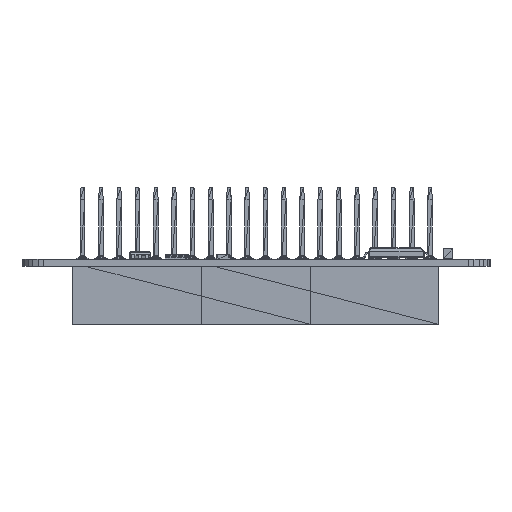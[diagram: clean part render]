
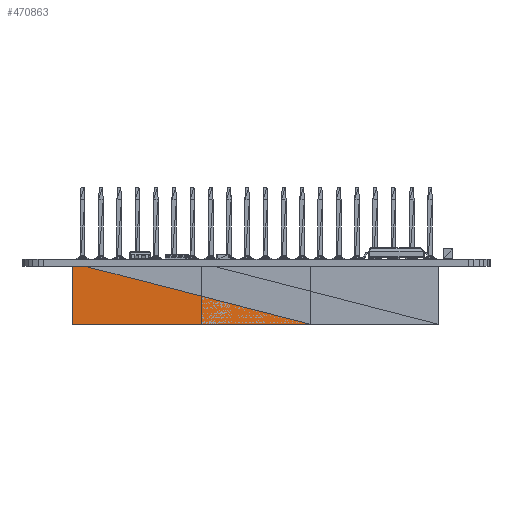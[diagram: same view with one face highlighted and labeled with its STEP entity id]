
A CAD part, front view. The second image highlights one B-rep face of the part: STEP entity #470863.
In plain terms, the highlighted planar face has unit normal (0, -1, 0) as drawn and (0, 0, -1) by its records, which use the part's own axes.
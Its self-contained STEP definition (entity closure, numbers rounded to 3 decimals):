
#470723 = VERTEX_POINT('',#470724);
#470724 = CARTESIAN_POINT('',(-34.335,10.648,
    -1.253));
#470752 = EDGE_CURVE('',#470723,#470753,#470755,.T.);
#470753 = VERTEX_POINT('',#470754);
#470754 = CARTESIAN_POINT('',(-1.315,19.148,
    -1.253));
#470755 = LINE('',#470756,#470757);
#470756 = CARTESIAN_POINT('',(-34.335,10.648,
    -1.253));
#470757 = VECTOR('',#470758,1.);
#470758 = DIRECTION('',(0.968,0.249,
    0.));
#470845 = VERTEX_POINT('',#470846);
#470846 = CARTESIAN_POINT('',(-34.335,19.148,
    -1.253));
#470852 = EDGE_CURVE('',#470845,#470723,#470853,.T.);
#470853 = LINE('',#470854,#470855);
#470854 = CARTESIAN_POINT('',(-34.335,19.148,
    -1.253));
#470855 = VECTOR('',#470856,1.);
#470856 = DIRECTION('',(0.,-1.,0.));
#470863 = ADVANCED_FACE('',(#470864),#470874,.F.);
#470864 = FACE_BOUND('',#470865,.T.);
#470865 = EDGE_LOOP('',(#470866,#470867,#470868));
#470866 = ORIENTED_EDGE('',*,*,#470752,.F.);
#470867 = ORIENTED_EDGE('',*,*,#470852,.F.);
#470868 = ORIENTED_EDGE('',*,*,#470869,.F.);
#470869 = EDGE_CURVE('',#470753,#470845,#470870,.T.);
#470870 = LINE('',#470871,#470872);
#470871 = CARTESIAN_POINT('',(-1.315,19.148,
    -1.253));
#470872 = VECTOR('',#470873,1.);
#470873 = DIRECTION('',(-1.,0.,0.));
#470874 = PLANE('',#470875);
#470875 = AXIS2_PLACEMENT_3D('',#470876,#470877,#470878);
#470876 = CARTESIAN_POINT('',(-1.315,19.148,
    -1.253));
#470877 = DIRECTION('',(0.,0.,1.));
#470878 = DIRECTION('',(0.,1.,0.));
